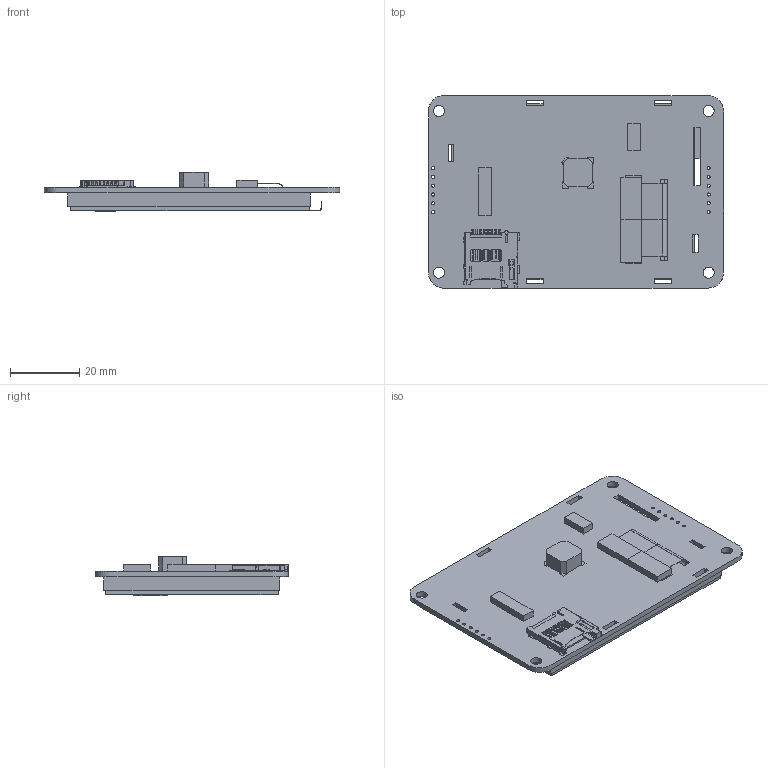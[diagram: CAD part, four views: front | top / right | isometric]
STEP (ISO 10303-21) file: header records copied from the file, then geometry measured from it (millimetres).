
FILE_DESCRIPTION(/* description */ (''),/* implementation_level */ '2;1');
FILE_NAME(/* name */ '',/* time_stamp */ '2023-05-27T17:12:21+08:00',/* author */ (''),/* organization */ (''),/* preprocessor_version */ 'ST-DEVELOPER v11',/* originating_system */ 'SIEMENS PLM Software NX 7.5',/* authorisation */ '');
FILE_SCHEMA (('AP203_CONFIGURATION_CONTROLLED_3D_DESIGN_OF_MECHANICAL_PARTS_AND_ASSEMBLIES_MIM_LF'));
Length unit declared in the file: millimetre
Products named in the file (1): SDWn028C23T
Bounding box: 85.2 x 55.71 x 11.31 mm (x, y, z)
Volume: 39226.2 mm3; surface area: 30785.5 mm2
Topology: 13 solids, 13 shells, 1290 faces, 3576 edges, 2329 vertices
Faces by surface type: plane 1022, cylinder 266, cone 1, extrusion 1
Full cylindrical faces by diameter (mm): 0.9 x12, 3.2 x4
Entity records: 41661 total; most frequent: CARTESIAN_POINT 7566, ORIENTED_EDGE 7118, DIRECTION 6570, EDGE_CURVE 3559, VECTOR 2916, LINE 2915, VERTEX_POINT 2329, AXIS2_PLACEMENT_3D 1827
